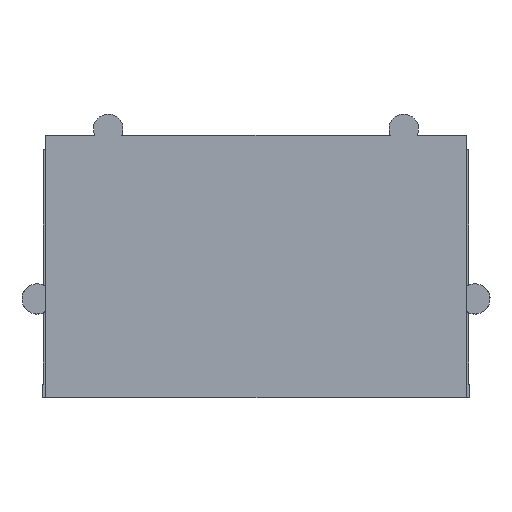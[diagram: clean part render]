
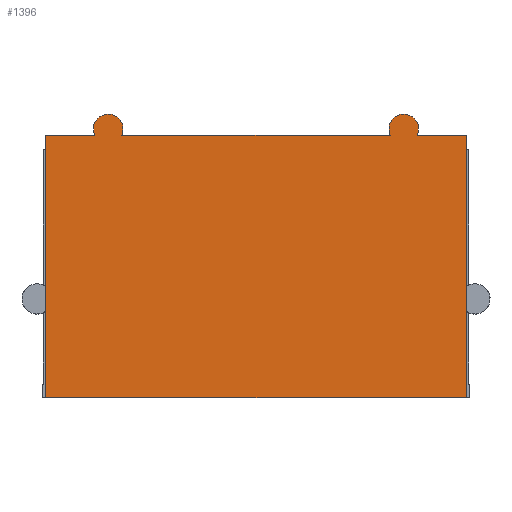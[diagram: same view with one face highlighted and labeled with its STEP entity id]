
A CAD part, top view. The second image highlights one B-rep face of the part: STEP entity #1396.
In plain terms, the highlighted planar face has unit normal (0, 0, 1).
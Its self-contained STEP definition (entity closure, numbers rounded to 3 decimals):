
#24 = VERTEX_POINT('',#25);
#25 = CARTESIAN_POINT('',(-31.3,66.08,1.));
#32 = PLANE('',#33);
#33 = AXIS2_PLACEMENT_3D('',#34,#35,#36);
#34 = CARTESIAN_POINT('',(-31.3,26.98,-16.75));
#35 = DIRECTION('',(1.,0.,-0.));
#36 = DIRECTION('',(0.,0.,1.));
#44 = PLANE('',#45);
#45 = AXIS2_PLACEMENT_3D('',#46,#47,#48);
#46 = CARTESIAN_POINT('',(-31.3,66.08,-16.75));
#47 = DIRECTION('',(-0.,1.,0.));
#48 = DIRECTION('',(0.,0.,1.));
#56 = EDGE_CURVE('',#57,#24,#59,.T.);
#57 = VERTEX_POINT('',#58);
#58 = CARTESIAN_POINT('',(-31.3,26.98,1.));
#59 = SURFACE_CURVE('',#60,(#64,#71),.PCURVE_S1.);
#60 = LINE('',#61,#62);
#61 = CARTESIAN_POINT('',(-31.3,26.98,1.));
#62 = VECTOR('',#63,1.);
#63 = DIRECTION('',(-0.,1.,0.));
#64 = PCURVE('',#32,#65);
#65 = DEFINITIONAL_REPRESENTATION('',(#66),#70);
#66 = LINE('',#67,#68);
#67 = CARTESIAN_POINT('',(17.75,0.));
#68 = VECTOR('',#69,1.);
#69 = DIRECTION('',(0.,-1.));
#70 = ( GEOMETRIC_REPRESENTATION_CONTEXT(2) 
PARAMETRIC_REPRESENTATION_CONTEXT() REPRESENTATION_CONTEXT('2D SPACE',''
  ) );
#71 = PCURVE('',#72,#77);
#72 = PLANE('',#73);
#73 = AXIS2_PLACEMENT_3D('',#74,#75,#76);
#74 = CARTESIAN_POINT('',(-31.3,26.98,1.));
#75 = DIRECTION('',(0.,0.,1.));
#76 = DIRECTION('',(1.,0.,-0.));
#77 = DEFINITIONAL_REPRESENTATION('',(#78),#82);
#78 = LINE('',#79,#80);
#79 = CARTESIAN_POINT('',(0.,0.));
#80 = VECTOR('',#81,1.);
#81 = DIRECTION('',(0.,1.));
#82 = ( GEOMETRIC_REPRESENTATION_CONTEXT(2) 
PARAMETRIC_REPRESENTATION_CONTEXT() REPRESENTATION_CONTEXT('2D SPACE',''
  ) );
#100 = PLANE('',#101);
#101 = AXIS2_PLACEMENT_3D('',#102,#103,#104);
#102 = CARTESIAN_POINT('',(-31.3,26.98,-16.75));
#103 = DIRECTION('',(-0.,1.,0.));
#104 = DIRECTION('',(0.,0.,1.));
#350 = EDGE_CURVE('',#351,#353,#355,.T.);
#351 = VERTEX_POINT('',#352);
#352 = CARTESIAN_POINT('',(23.998,66.08,1.));
#353 = VERTEX_POINT('',#354);
#354 = CARTESIAN_POINT('',(31.3,66.08,1.));
#355 = SURFACE_CURVE('',#356,(#360,#367),.PCURVE_S1.);
#356 = LINE('',#357,#358);
#357 = CARTESIAN_POINT('',(-31.3,66.08,1.));
#358 = VECTOR('',#359,1.);
#359 = DIRECTION('',(1.,0.,-0.));
#360 = PCURVE('',#44,#361);
#361 = DEFINITIONAL_REPRESENTATION('',(#362),#366);
#362 = LINE('',#363,#364);
#363 = CARTESIAN_POINT('',(17.75,0.));
#364 = VECTOR('',#365,1.);
#365 = DIRECTION('',(0.,1.));
#366 = ( GEOMETRIC_REPRESENTATION_CONTEXT(2) 
PARAMETRIC_REPRESENTATION_CONTEXT() REPRESENTATION_CONTEXT('2D SPACE',''
  ) );
#367 = PCURVE('',#72,#368);
#368 = DEFINITIONAL_REPRESENTATION('',(#369),#373);
#369 = LINE('',#370,#371);
#370 = CARTESIAN_POINT('',(0.,39.1));
#371 = VECTOR('',#372,1.);
#372 = DIRECTION('',(1.,0.));
#373 = ( GEOMETRIC_REPRESENTATION_CONTEXT(2) 
PARAMETRIC_REPRESENTATION_CONTEXT() REPRESENTATION_CONTEXT('2D SPACE',''
  ) );
#391 = PLANE('',#392);
#392 = AXIS2_PLACEMENT_3D('',#393,#394,#395);
#393 = CARTESIAN_POINT('',(31.3,26.98,-16.75));
#394 = DIRECTION('',(1.,0.,-0.));
#395 = DIRECTION('',(0.,0.,1.));
#425 = EDGE_CURVE('',#24,#426,#428,.T.);
#426 = VERTEX_POINT('',#427);
#427 = CARTESIAN_POINT('',(-23.998,66.08,1.));
#428 = SURFACE_CURVE('',#429,(#433,#440),.PCURVE_S1.);
#429 = LINE('',#430,#431);
#430 = CARTESIAN_POINT('',(-31.3,66.08,1.));
#431 = VECTOR('',#432,1.);
#432 = DIRECTION('',(1.,0.,-0.));
#433 = PCURVE('',#44,#434);
#434 = DEFINITIONAL_REPRESENTATION('',(#435),#439);
#435 = LINE('',#436,#437);
#436 = CARTESIAN_POINT('',(17.75,0.));
#437 = VECTOR('',#438,1.);
#438 = DIRECTION('',(0.,1.));
#439 = ( GEOMETRIC_REPRESENTATION_CONTEXT(2) 
PARAMETRIC_REPRESENTATION_CONTEXT() REPRESENTATION_CONTEXT('2D SPACE',''
  ) );
#440 = PCURVE('',#72,#441);
#441 = DEFINITIONAL_REPRESENTATION('',(#442),#446);
#442 = LINE('',#443,#444);
#443 = CARTESIAN_POINT('',(0.,39.1));
#444 = VECTOR('',#445,1.);
#445 = DIRECTION('',(1.,0.));
#446 = ( GEOMETRIC_REPRESENTATION_CONTEXT(2) 
PARAMETRIC_REPRESENTATION_CONTEXT() REPRESENTATION_CONTEXT('2D SPACE',''
  ) );
#463 = CYLINDRICAL_SURFACE('',#464,2.2);
#464 = AXIS2_PLACEMENT_3D('',#465,#466,#467);
#465 = CARTESIAN_POINT('',(-22.,67.,-13.8));
#466 = DIRECTION('',(0.,0.,1.));
#467 = DIRECTION('',(1.,0.,-0.));
#501 = VERTEX_POINT('',#502);
#502 = CARTESIAN_POINT('',(-20.002,66.08,1.));
#521 = EDGE_CURVE('',#501,#522,#524,.T.);
#522 = VERTEX_POINT('',#523);
#523 = CARTESIAN_POINT('',(20.002,66.08,1.));
#524 = SURFACE_CURVE('',#525,(#529,#536),.PCURVE_S1.);
#525 = LINE('',#526,#527);
#526 = CARTESIAN_POINT('',(-31.3,66.08,1.));
#527 = VECTOR('',#528,1.);
#528 = DIRECTION('',(1.,0.,-0.));
#529 = PCURVE('',#44,#530);
#530 = DEFINITIONAL_REPRESENTATION('',(#531),#535);
#531 = LINE('',#532,#533);
#532 = CARTESIAN_POINT('',(17.75,0.));
#533 = VECTOR('',#534,1.);
#534 = DIRECTION('',(0.,1.));
#535 = ( GEOMETRIC_REPRESENTATION_CONTEXT(2) 
PARAMETRIC_REPRESENTATION_CONTEXT() REPRESENTATION_CONTEXT('2D SPACE',''
  ) );
#536 = PCURVE('',#72,#537);
#537 = DEFINITIONAL_REPRESENTATION('',(#538),#542);
#538 = LINE('',#539,#540);
#539 = CARTESIAN_POINT('',(0.,39.1));
#540 = VECTOR('',#541,1.);
#541 = DIRECTION('',(1.,0.));
#542 = ( GEOMETRIC_REPRESENTATION_CONTEXT(2) 
PARAMETRIC_REPRESENTATION_CONTEXT() REPRESENTATION_CONTEXT('2D SPACE',''
  ) );
#559 = CYLINDRICAL_SURFACE('',#560,2.2);
#560 = AXIS2_PLACEMENT_3D('',#561,#562,#563);
#561 = CARTESIAN_POINT('',(22.,67.,-13.8));
#562 = DIRECTION('',(0.,0.,1.));
#563 = DIRECTION('',(1.,0.,-0.));
#1353 = EDGE_CURVE('',#57,#1354,#1356,.T.);
#1354 = VERTEX_POINT('',#1355);
#1355 = CARTESIAN_POINT('',(31.3,26.98,1.));
#1356 = SURFACE_CURVE('',#1357,(#1361,#1368),.PCURVE_S1.);
#1357 = LINE('',#1358,#1359);
#1358 = CARTESIAN_POINT('',(-31.3,26.98,1.));
#1359 = VECTOR('',#1360,1.);
#1360 = DIRECTION('',(1.,0.,-0.));
#1361 = PCURVE('',#100,#1362);
#1362 = DEFINITIONAL_REPRESENTATION('',(#1363),#1367);
#1363 = LINE('',#1364,#1365);
#1364 = CARTESIAN_POINT('',(17.75,0.));
#1365 = VECTOR('',#1366,1.);
#1366 = DIRECTION('',(0.,1.));
#1367 = ( GEOMETRIC_REPRESENTATION_CONTEXT(2) 
PARAMETRIC_REPRESENTATION_CONTEXT() REPRESENTATION_CONTEXT('2D SPACE',''
  ) );
#1368 = PCURVE('',#72,#1369);
#1369 = DEFINITIONAL_REPRESENTATION('',(#1370),#1374);
#1370 = LINE('',#1371,#1372);
#1371 = CARTESIAN_POINT('',(0.,0.));
#1372 = VECTOR('',#1373,1.);
#1373 = DIRECTION('',(1.,0.));
#1374 = ( GEOMETRIC_REPRESENTATION_CONTEXT(2) 
PARAMETRIC_REPRESENTATION_CONTEXT() REPRESENTATION_CONTEXT('2D SPACE',''
  ) );
#1396 = ADVANCED_FACE('',(#1397),#72,.T.);
#1397 = FACE_BOUND('',#1398,.T.);
#1398 = EDGE_LOOP('',(#1399,#1400,#1401,#1402,#1423,#1424,#1446,#1447));
#1399 = ORIENTED_EDGE('',*,*,#425,.F.);
#1400 = ORIENTED_EDGE('',*,*,#56,.F.);
#1401 = ORIENTED_EDGE('',*,*,#1353,.T.);
#1402 = ORIENTED_EDGE('',*,*,#1403,.T.);
#1403 = EDGE_CURVE('',#1354,#353,#1404,.T.);
#1404 = SURFACE_CURVE('',#1405,(#1409,#1416),.PCURVE_S1.);
#1405 = LINE('',#1406,#1407);
#1406 = CARTESIAN_POINT('',(31.3,26.98,1.));
#1407 = VECTOR('',#1408,1.);
#1408 = DIRECTION('',(-0.,1.,0.));
#1409 = PCURVE('',#72,#1410);
#1410 = DEFINITIONAL_REPRESENTATION('',(#1411),#1415);
#1411 = LINE('',#1412,#1413);
#1412 = CARTESIAN_POINT('',(62.6,0.));
#1413 = VECTOR('',#1414,1.);
#1414 = DIRECTION('',(0.,1.));
#1415 = ( GEOMETRIC_REPRESENTATION_CONTEXT(2) 
PARAMETRIC_REPRESENTATION_CONTEXT() REPRESENTATION_CONTEXT('2D SPACE',''
  ) );
#1416 = PCURVE('',#391,#1417);
#1417 = DEFINITIONAL_REPRESENTATION('',(#1418),#1422);
#1418 = LINE('',#1419,#1420);
#1419 = CARTESIAN_POINT('',(17.75,0.));
#1420 = VECTOR('',#1421,1.);
#1421 = DIRECTION('',(0.,-1.));
#1422 = ( GEOMETRIC_REPRESENTATION_CONTEXT(2) 
PARAMETRIC_REPRESENTATION_CONTEXT() REPRESENTATION_CONTEXT('2D SPACE',''
  ) );
#1423 = ORIENTED_EDGE('',*,*,#350,.F.);
#1424 = ORIENTED_EDGE('',*,*,#1425,.T.);
#1425 = EDGE_CURVE('',#351,#522,#1426,.T.);
#1426 = SURFACE_CURVE('',#1427,(#1432,#1439),.PCURVE_S1.);
#1427 = CIRCLE('',#1428,2.2);
#1428 = AXIS2_PLACEMENT_3D('',#1429,#1430,#1431);
#1429 = CARTESIAN_POINT('',(22.,67.,1.));
#1430 = DIRECTION('',(-0.,0.,1.));
#1431 = DIRECTION('',(0.908,-0.418,0.));
#1432 = PCURVE('',#72,#1433);
#1433 = DEFINITIONAL_REPRESENTATION('',(#1434),#1438);
#1434 = CIRCLE('',#1435,2.2);
#1435 = AXIS2_PLACEMENT_2D('',#1436,#1437);
#1436 = CARTESIAN_POINT('',(53.3,40.02));
#1437 = DIRECTION('',(0.908,-0.418));
#1438 = ( GEOMETRIC_REPRESENTATION_CONTEXT(2) 
PARAMETRIC_REPRESENTATION_CONTEXT() REPRESENTATION_CONTEXT('2D SPACE',''
  ) );
#1439 = PCURVE('',#559,#1440);
#1440 = DEFINITIONAL_REPRESENTATION('',(#1441),#1445);
#1441 = LINE('',#1442,#1443);
#1442 = CARTESIAN_POINT('',(5.852,14.8));
#1443 = VECTOR('',#1444,1.);
#1444 = DIRECTION('',(1.,0.));
#1445 = ( GEOMETRIC_REPRESENTATION_CONTEXT(2) 
PARAMETRIC_REPRESENTATION_CONTEXT() REPRESENTATION_CONTEXT('2D SPACE',''
  ) );
#1446 = ORIENTED_EDGE('',*,*,#521,.F.);
#1447 = ORIENTED_EDGE('',*,*,#1448,.T.);
#1448 = EDGE_CURVE('',#501,#426,#1449,.T.);
#1449 = SURFACE_CURVE('',#1450,(#1455,#1462),.PCURVE_S1.);
#1450 = CIRCLE('',#1451,2.2);
#1451 = AXIS2_PLACEMENT_3D('',#1452,#1453,#1454);
#1452 = CARTESIAN_POINT('',(-22.,67.,1.));
#1453 = DIRECTION('',(-0.,0.,1.));
#1454 = DIRECTION('',(0.908,-0.418,0.));
#1455 = PCURVE('',#72,#1456);
#1456 = DEFINITIONAL_REPRESENTATION('',(#1457),#1461);
#1457 = CIRCLE('',#1458,2.2);
#1458 = AXIS2_PLACEMENT_2D('',#1459,#1460);
#1459 = CARTESIAN_POINT('',(9.3,40.02));
#1460 = DIRECTION('',(0.908,-0.418));
#1461 = ( GEOMETRIC_REPRESENTATION_CONTEXT(2) 
PARAMETRIC_REPRESENTATION_CONTEXT() REPRESENTATION_CONTEXT('2D SPACE',''
  ) );
#1462 = PCURVE('',#463,#1463);
#1463 = DEFINITIONAL_REPRESENTATION('',(#1464),#1468);
#1464 = LINE('',#1465,#1466);
#1465 = CARTESIAN_POINT('',(5.852,14.8));
#1466 = VECTOR('',#1467,1.);
#1467 = DIRECTION('',(1.,0.));
#1468 = ( GEOMETRIC_REPRESENTATION_CONTEXT(2) 
PARAMETRIC_REPRESENTATION_CONTEXT() REPRESENTATION_CONTEXT('2D SPACE',''
  ) );
